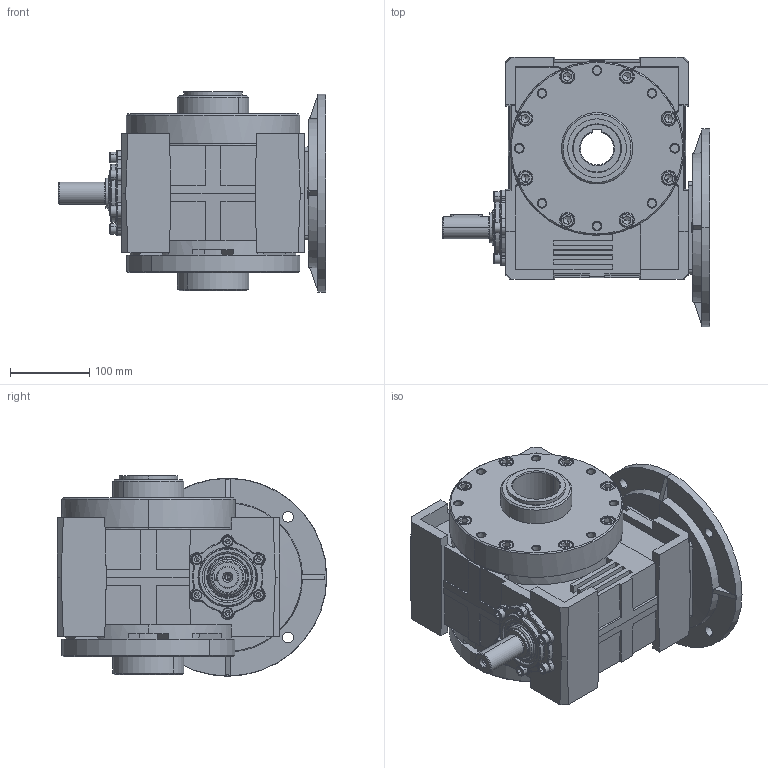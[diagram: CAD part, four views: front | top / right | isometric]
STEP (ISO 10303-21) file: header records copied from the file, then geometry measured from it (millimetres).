
FILE_DESCRIPTION (( 'STEP AP203' ), '1' );
FILE_NAME ('MRP-100_250-28_WBS_SO-2.STEP', '2022-12-05T11:46:03', ( '' ), ( '' ), 'SwSTEP 2.0', 'SolidWorks 2022', '' );
FILE_SCHEMA (( 'CONFIG_CONTROL_DESIGN' ));
Products named in the file (1): MRP-100_250-28_WBS_SO-2
Bounding box: 337 x 340 x 253 mm (x, y, z)
Volume: 10171775 mm3; surface area: 748352.3 mm2
Topology: 1 solids, 44 shells, 1651 faces, 3836 edges, 2327 vertices
Faces by surface type: plane 776, cylinder 379, cone 309, torus 175, bspline 12
Entity records: 47250 total; most frequent: CARTESIAN_POINT 9124, DIRECTION 8437, ORIENTED_EDGE 7520, EDGE_CURVE 3760, AXIS2_PLACEMENT_3D 3256, VERTEX_POINT 2327, LINE 1925, VECTOR 1925
